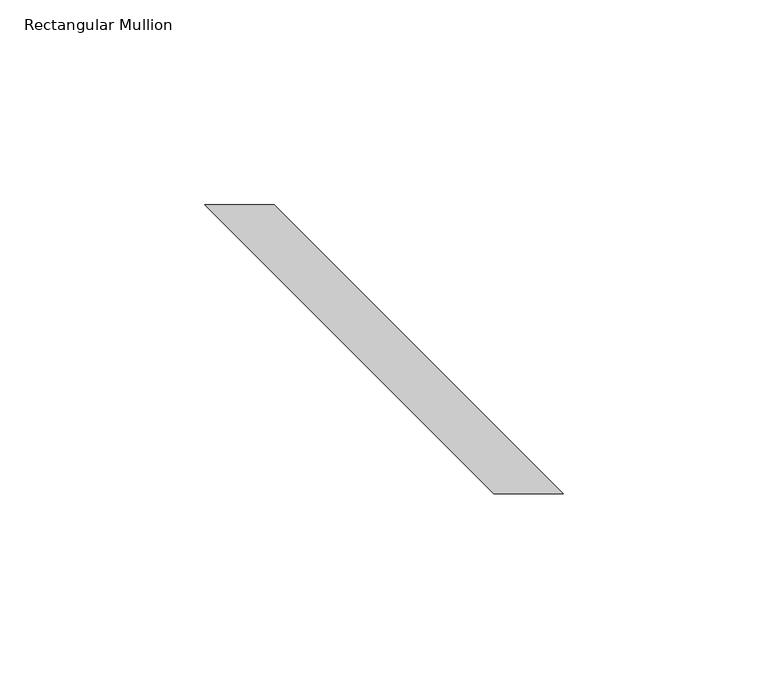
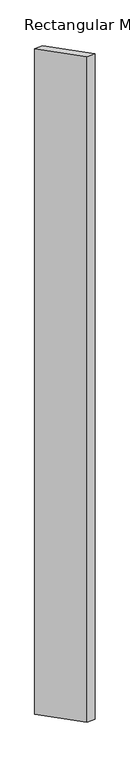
"""IFC4 building model written with IfcOpenShell, lengths in millimetres: member geometry, Rectangular Mullion : RSen_21_CWM_blade - 100 C_gen_duco projects."""

from ifc_helpers import new_model, si_unit, frame, origin, place, context, project, spatial, polyline, outline, extrude, source, transform, mapped, element, save


def rectangular_mullion_0894c78b(model_context):
    return source(origin(), model_context, "Body", "SweptSolid", [
        extrude(outline(polyline([(26.8700577, 5.1446609), (-43.8406204, 75.8553391), (-26.8700577, 75.8553391), (43.8406204, 5.1446609), (26.8700577, 5.1446609)])), frame((0.0, 0.0, -1500.0), z_axis=(0.0, 0.0, 1.0), x_axis=(1.0, 0.0, 0.0)), (0.0, 0.0, 1.0), 1500.0),
    ])


if __name__ == "__main__":
    model = new_model("IFC4")
    model_context = context("Model", 3, world=origin())
    ifc_project = project(units=[si_unit("LENGTHUNIT", "METRE", prefix="MILLI")], contexts=[model_context])
    site = spatial("IfcSite", under=ifc_project)
    building = spatial("IfcBuilding", under=site)
    placement = place(None, origin())
    rectangular_mullion_shape = rectangular_mullion_0894c78b(model_context)
    element("IfcMember", 1, ObjectType="Rectangular Mullion : RSen_21_CWM_blade - 100 C_gen_duco projects", at=placement, inside=building, context=model_context, shape_type="MappedRepresentation", body=[
        mapped(rectangular_mullion_shape, transform((0.0, 0.0, 0.0), x_axis=(1.0, 0.0, 0.0), y_axis=(0.0, 1.0, 0.0), z_axis=(0.0, 0.0, 1.0))),
    ])
    save(model, "model.ifc")
